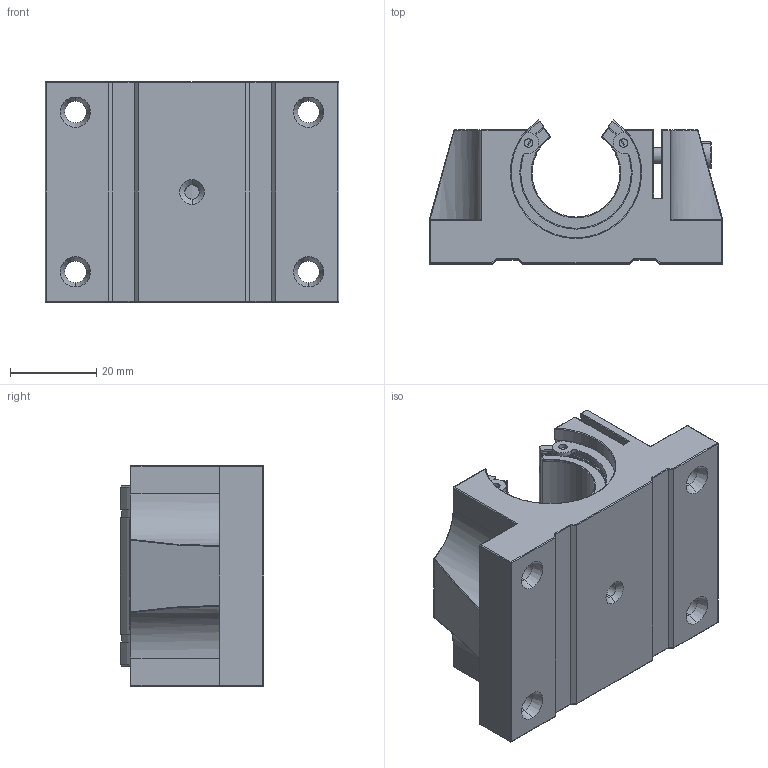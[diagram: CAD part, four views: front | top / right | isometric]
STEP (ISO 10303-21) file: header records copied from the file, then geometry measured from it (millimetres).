
FILE_DESCRIPTION (( 'STEP AP214' ), '1' );
FILE_NAME ('TBR20UU.STEP', '2020-10-01T07:00:05', ( '' ), ( '' ), 'SwSTEP 2.0', 'SolidWorks 2018', '' );
FILE_SCHEMA (( 'AUTOMOTIVE_DESIGN' ));
Length unit declared in the file: millimetre
Products named in the file (6): TBR20UU-5_Œ4å12; TBR20UU-4; TBR20UU-2; TBR20UU-3; TBR20UU-1; TBR20UU
Assembly tree (6 placements, depth 2):
  TBR20UU
    TBR20UU-1
    TBR20UU-3
    TBR20UU-2
    TBR20UU-4  x2
    TBR20UU-5_Œ4å12
Bounding box: 68 x 33.29 x 51 mm (x, y, z)
Volume: 67242.5 mm3; surface area: 30052.5 mm2
Topology: 6 solids, 6 shells, 398 faces, 989 edges, 601 vertices
Faces by surface type: cylinder 161, plane 133, bspline 38, cone 28, torus 22, sphere 16
Entity records: 14386 total; most frequent: CARTESIAN_POINT 4291, ORIENTED_EDGE 1852, DIRECTION 1820, EDGE_CURVE 926, AXIS2_PLACEMENT_3D 656, VERTEX_POINT 571, VECTOR 508, LINE 508
